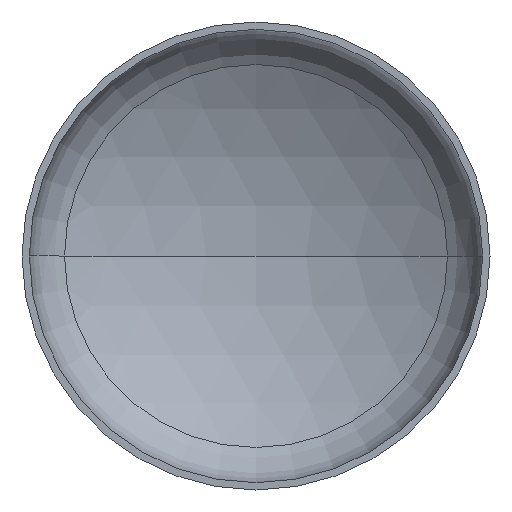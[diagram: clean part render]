
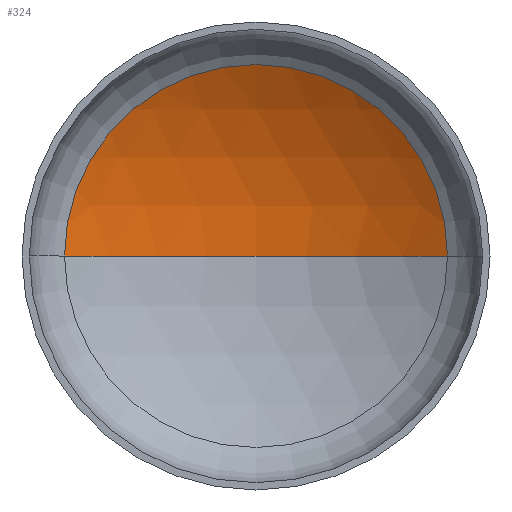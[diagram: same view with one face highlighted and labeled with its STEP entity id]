
A CAD part, front view. The second image highlights one B-rep face of the part: STEP entity #324.
In plain terms, the highlighted spherical face has radius 5200 mm.
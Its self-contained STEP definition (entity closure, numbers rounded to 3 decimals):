
#14 = AXIS2_PLACEMENT_3D ( 'NONE', #98, #101, #103 ) ;
#50 = CIRCLE ( 'NONE', #55, 5200. ) ;
#51 = AXIS2_PLACEMENT_3D ( 'NONE', #145, #270, #269 ) ;
#55 = AXIS2_PLACEMENT_3D ( 'NONE', #273, #271, #287 ) ;
#56 = AXIS2_PLACEMENT_3D ( 'NONE', #325, #225, #353 ) ;
#84 = EDGE_CURVE ( 'NONE', #307, #210, #158, .T. ) ;
#85 = EDGE_CURVE ( 'NONE', #183, #307, #50, .T. ) ;
#89 = EDGE_CURVE ( 'NONE', #183, #210, #368, .T. ) ;
#98 = CARTESIAN_POINT ( 'NONE',  ( 0., -3534.168, 0. ) ) ;
#101 = DIRECTION ( 'NONE',  ( 0., 0., -1. ) ) ;
#103 = DIRECTION ( 'NONE',  ( -1., 0., 0. ) ) ;
#105 = CARTESIAN_POINT ( 'NONE',  ( 2659.429, 934.326, 0. ) ) ;
#114 = CARTESIAN_POINT ( 'NONE',  ( -2659.429, 934.326, 0. ) ) ;
#130 = ORIENTED_EDGE ( 'NONE', *, *, #89, .F. ) ;
#145 = CARTESIAN_POINT ( 'NONE',  ( 0., -3534.168, 0. ) ) ;
#151 = ORIENTED_EDGE ( 'NONE', *, *, #84, .T. ) ;
#158 = CIRCLE ( 'NONE', #56, 2659.429 ) ;
#180 = FACE_OUTER_BOUND ( 'NONE', #278, .T. ) ;
#183 = VERTEX_POINT ( 'NONE', #186 ) ;
#186 = CARTESIAN_POINT ( 'NONE',  ( 0., 1665.832, 0. ) ) ;
#210 = VERTEX_POINT ( 'NONE', #114 ) ;
#225 = DIRECTION ( 'NONE',  ( 0., -1., 0. ) ) ;
#249 = SPHERICAL_SURFACE ( 'NONE', #14, 5200. ) ;
#269 = DIRECTION ( 'NONE',  ( 1., 0., 0. ) ) ;
#270 = DIRECTION ( 'NONE',  ( 0., 0., 1. ) ) ;
#271 = DIRECTION ( 'NONE',  ( 0., 0., -1. ) ) ;
#273 = CARTESIAN_POINT ( 'NONE',  ( 0., -3534.168, 0. ) ) ;
#278 = EDGE_LOOP ( 'NONE', ( #130, #371, #151 ) ) ;
#287 = DIRECTION ( 'NONE',  ( -1., 0., 0. ) ) ;
#307 = VERTEX_POINT ( 'NONE', #105 ) ;
#324 = ADVANCED_FACE ( 'NONE', ( #180 ), #249, .F. ) ;
#325 = CARTESIAN_POINT ( 'NONE',  ( 0., 934.326, 0. ) ) ;
#353 = DIRECTION ( 'NONE',  ( 1., 0., 0. ) ) ;
#368 = CIRCLE ( 'NONE', #51, 5200. ) ;
#371 = ORIENTED_EDGE ( 'NONE', *, *, #85, .T. ) ;
